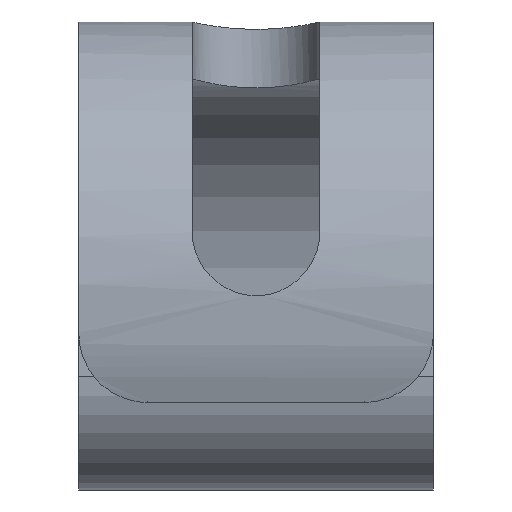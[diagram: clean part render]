
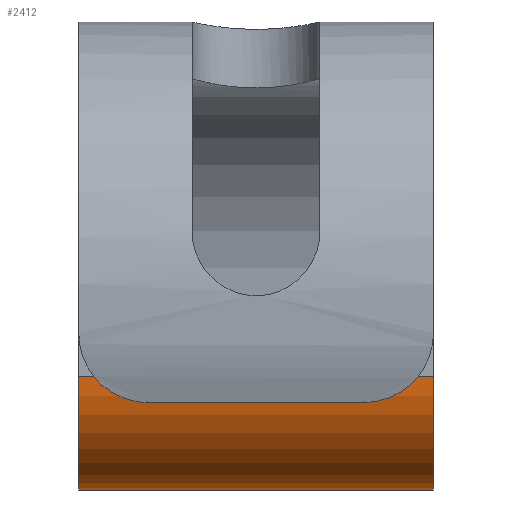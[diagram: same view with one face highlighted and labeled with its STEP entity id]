
A CAD part, left-side view. The second image highlights one B-rep face of the part: STEP entity #2412.
In plain terms, the highlighted cylindrical face has radius 8.067 mm (diameter 16.133 mm), a partial arc.
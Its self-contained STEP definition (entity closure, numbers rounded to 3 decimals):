
#1657=CARTESIAN_POINT('',(-12.,12.5,-4.));
#1658=VERTEX_POINT('',#1657);
#1665=CARTESIAN_POINT('',(-20.,12.5,4.));
#1666=VERTEX_POINT('',#1665);
#1667=CARTESIAN_POINT('',(-11.934,12.5,4.066));
#1668=DIRECTION('',(0.0,-1.0,0.0));
#1669=DIRECTION('',(-1.,0.0,-0.008));
#1670=AXIS2_PLACEMENT_3D('',#1667,#1668,#1669);
#1671=CIRCLE('',#1670,8.067);
#1672=EDGE_CURVE('',#1666,#1658,#1671,.T.);
#1974=CARTESIAN_POINT('',(-20.,-12.5,4.));
#1975=VERTEX_POINT('',#1974);
#1982=CARTESIAN_POINT('',(-12.,-12.5,-4.));
#1983=VERTEX_POINT('',#1982);
#1984=CARTESIAN_POINT('',(-11.934,-12.5,4.066));
#1985=DIRECTION('',(0.0,1.0,0.0));
#1986=DIRECTION('',(-1.,0.0,-0.008));
#1987=AXIS2_PLACEMENT_3D('',#1984,#1985,#1986);
#1988=CIRCLE('',#1987,8.067);
#1989=EDGE_CURVE('',#1983,#1975,#1988,.T.);
#2111=CARTESIAN_POINT('',(-12.,12.5,-4.));
#2112=DIRECTION('',(0.0,-1.0,0.0));
#2113=VECTOR('',#2112,25.);
#2114=LINE('',#2111,#2113);
#2115=EDGE_CURVE('',#1658,#1983,#2114,.T.);
#2396=CARTESIAN_POINT('',(-11.934,12.5,4.066));
#2397=DIRECTION('',(0.0,-1.0,0.0));
#2398=DIRECTION('',(-1.,0.0,-0.008));
#2399=AXIS2_PLACEMENT_3D('',#2396,#2397,#2398);
#2400=CYLINDRICAL_SURFACE('',#2399,8.067);
#2401=ORIENTED_EDGE('',*,*,#1989,.T.);
#2402=CARTESIAN_POINT('',(-20.,12.5,4.));
#2403=DIRECTION('',(0.0,-1.0,0.0));
#2404=VECTOR('',#2403,25.);
#2405=LINE('',#2402,#2404);
#2406=EDGE_CURVE('',#1666,#1975,#2405,.T.);
#2407=ORIENTED_EDGE('',*,*,#2406,.F.);
#2408=ORIENTED_EDGE('',*,*,#1672,.T.);
#2409=ORIENTED_EDGE('',*,*,#2115,.T.);
#2410=EDGE_LOOP('',(#2401,#2407,#2408,#2409));
#2411=FACE_OUTER_BOUND('',#2410,.T.);
#2412=ADVANCED_FACE('',(#2411),#2400,.T.);
